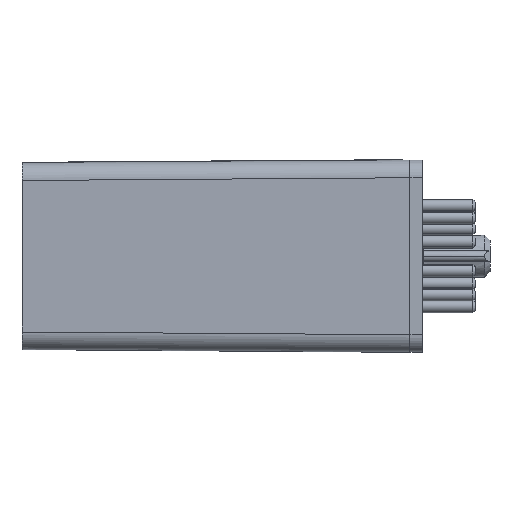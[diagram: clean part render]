
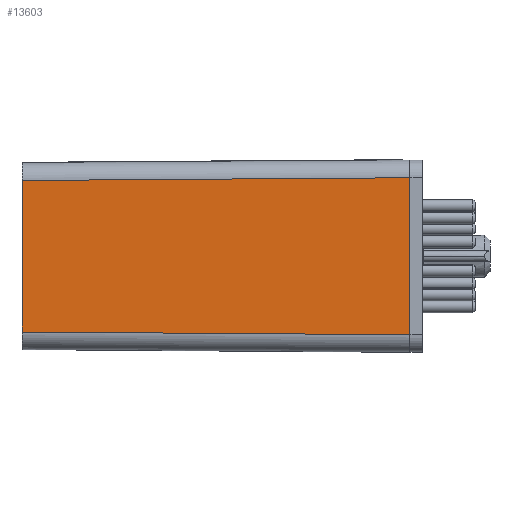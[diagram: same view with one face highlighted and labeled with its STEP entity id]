
A CAD part, left-side view. The second image highlights one B-rep face of the part: STEP entity #13603.
In plain terms, the highlighted planar face has unit normal (-1, 0.015, 0).
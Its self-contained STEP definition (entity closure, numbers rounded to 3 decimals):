
#89 = EDGE_LOOP ( 'NONE', ( #25566, #8256, #12965, #1183 ) ) ;
#1143 = EDGE_CURVE ( 'NONE', #24358, #7988, #9461, .T. ) ;
#1183 = ORIENTED_EDGE ( 'NONE', *, *, #1143, .T. ) ;
#1536 = VECTOR ( 'NONE', #16691, 1000. ) ;
#2444 = CARTESIAN_POINT ( 'NONE',  ( -37.004, -72.7, -14.708 ) ) ;
#2827 = DIRECTION ( 'NONE',  ( 0.015, 1., -0.007 ) ) ;
#3167 = CARTESIAN_POINT ( 'NONE',  ( -35.9, -0.023, 14.2 ) ) ;
#7957 = CARTESIAN_POINT ( 'NONE',  ( -35.9, 0., 17.5 ) ) ;
#7985 = LINE ( 'NONE', #22978, #1536 ) ;
#7988 = VERTEX_POINT ( 'NONE', #11727 ) ;
#8256 = ORIENTED_EDGE ( 'NONE', *, *, #13940, .T. ) ;
#9461 = LINE ( 'NONE', #3167, #27376 ) ;
#10103 = DIRECTION ( 'NONE',  ( -0.015, -1., 0. ) ) ;
#10267 = FACE_OUTER_BOUND ( 'NONE', #89, .T. ) ;
#10640 = DIRECTION ( 'NONE',  ( -0.015, -1., -0.007 ) ) ;
#10923 = VECTOR ( 'NONE', #25899, 1000. ) ;
#11238 = LINE ( 'NONE', #23172, #22517 ) ;
#11727 = CARTESIAN_POINT ( 'NONE',  ( -35.9, 0., 14.2 ) ) ;
#12154 = EDGE_CURVE ( 'NONE', #26230, #7988, #16586, .T. ) ;
#12877 = EDGE_CURVE ( 'NONE', #14652, #24358, #7985, .T. ) ;
#12965 = ORIENTED_EDGE ( 'NONE', *, *, #12877, .T. ) ;
#13139 = CARTESIAN_POINT ( 'NONE',  ( -35.9, 0., -14.2 ) ) ;
#13603 = ADVANCED_FACE ( 'NONE', ( #10267 ), #16344, .T. ) ;
#13940 = EDGE_CURVE ( 'NONE', #26230, #14652, #11238, .T. ) ;
#14652 = VERTEX_POINT ( 'NONE', #2444 ) ;
#16344 = PLANE ( 'NONE',  #17751 ) ;
#16586 = LINE ( 'NONE', #21673, #10923 ) ;
#16691 = DIRECTION ( 'NONE',  ( 0., 0., 1. ) ) ;
#17751 = AXIS2_PLACEMENT_3D ( 'NONE', #7957, #22816, #10103 ) ;
#21673 = CARTESIAN_POINT ( 'NONE',  ( -35.9, 0., 17.5 ) ) ;
#22517 = VECTOR ( 'NONE', #10640, 1000. ) ;
#22816 = DIRECTION ( 'NONE',  ( -1., 0.015, 0. ) ) ;
#22978 = CARTESIAN_POINT ( 'NONE',  ( -37.004, -72.7, 17.5 ) ) ;
#23172 = CARTESIAN_POINT ( 'NONE',  ( -35.897, 0.221, -14.199 ) ) ;
#24358 = VERTEX_POINT ( 'NONE', #26980 ) ;
#25566 = ORIENTED_EDGE ( 'NONE', *, *, #12154, .F. ) ;
#25899 = DIRECTION ( 'NONE',  ( 0., 0., 1. ) ) ;
#26230 = VERTEX_POINT ( 'NONE', #13139 ) ;
#26980 = CARTESIAN_POINT ( 'NONE',  ( -37.004, -72.7, 14.708 ) ) ;
#27376 = VECTOR ( 'NONE', #2827, 1000. ) ;
